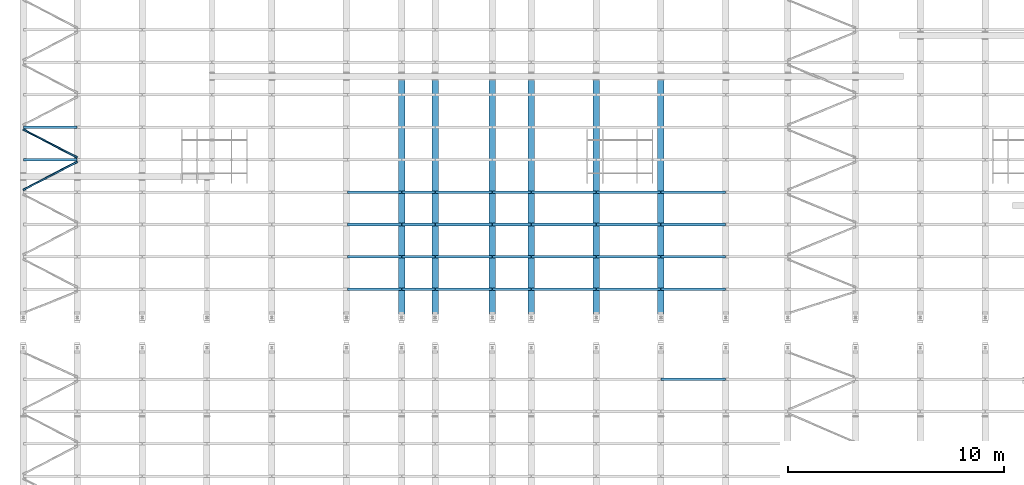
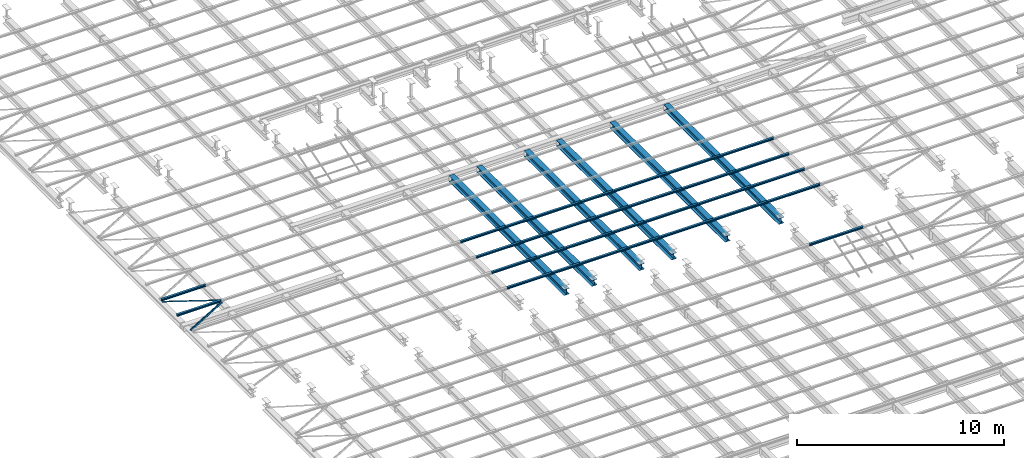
# One storey, part 53 of 139: 39 beams.
"""IFC2X3 building model written with IfcOpenShell, lengths in metres."""

from ifc_helpers import new_model, entity, si_unit, converted_unit, derived_unit, frame, origin, place, context, subcontext, project, spatial, polyline, outline, extrude, material, element, save


model = new_model("IFC2X3")

# Units and contexts
model_context = context("Model", 3, precision=1e-05, world=origin())
body_context = subcontext(model_context, "Body", "Model", "MODEL_VIEW")
ifc_project = project(units=[si_unit("LENGTHUNIT", "METRE"), si_unit("AREAUNIT", "SQUARE_METRE"), si_unit("VOLUMEUNIT", "CUBIC_METRE"), si_unit("MASSUNIT", "GRAM", prefix="KILO"), converted_unit("PLANEANGLEUNIT", "DEGREE", entity("IfcPlaneAngleMeasure", 0.0174532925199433), si_unit("PLANEANGLEUNIT", "RADIAN"), dimensions=[0, 0, 0, 0, 0, 0, 0]), derived_unit("THERMALTRANSMITTANCEUNIT", [(si_unit("POWERUNIT", "WATT"), 1), (si_unit("THERMODYNAMICTEMPERATUREUNIT", "KELVIN"), -1), (si_unit("LENGTHUNIT", "METRE"), -2)]), derived_unit("VOLUMETRICFLOWRATEUNIT", [(si_unit("LENGTHUNIT", "METRE"), 3), (converted_unit("TIMEUNIT", "hour", entity("IfcTimeMeasure", 3600.0), si_unit("TIMEUNIT", "SECOND"), dimensions=[0, 0, 1, 0, 0, 0, 0]), -1), (si_unit("LENGTHUNIT", "METRE"), -1)])], contexts=[model_context])

# Site, building, storey
site_placement = place(None, origin())
site = spatial("IfcSite", under=ifc_project, at=site_placement, Name="TWP_Speiseverteilzentrum SBW VZ II", CompositionType="ELEMENT")
building_placement = place(site_placement, origin())
building = spatial("IfcBuilding", under=site, at=building_placement, Name="Speiseverteilzentrum SBW VZ II", CompositionType="ELEMENT")
storey_placement = place(building_placement, frame((0.0, 0.0, 7.1307)))
storey = spatial("IfcBuildingStorey", under=building, at=storey_placement, Name="Wartung_FFB", CompositionType="ELEMENT", Elevation=7.1307)

# Beams
ifc_material_1 = material(Name="S235")
beam_1_placement = place(storey_placement, frame((32.2500000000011, 63.2824932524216, -0.365), z_axis=(0.0, 0.0, 1.0), x_axis=(-1.0, 0.0, 0.0)))
element("IfcBeam", 1, at=beam_1_placement, inside=storey, material=ifc_material_1, Name="Stahlträger", context=body_context, shape_type="SweptSolid", body=[
    extrude(outline(polyline([(-0.15, 0.175), (-0.15, 0.1575), (-0.00500000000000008, 0.1575), (-0.0050000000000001, -0.1575), (-0.15, -0.1575), (-0.15, -0.175), (0.15, -0.175), (0.15, -0.1575), (0.0049999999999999, -0.1575), (0.00499999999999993, 0.1575), (0.15, 0.1575), (0.15, 0.175), (-0.15, 0.175)])), frame((0.0, 0.0, 0.0), z_axis=(0.0, 1.0, 0.0), x_axis=(-1.0, 0.0, 0.0)), (0.0, 0.0, 1.0), 11.1324932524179),
])
ifc_material_2 = material(Name="S235")
beam_2_placement = place(storey_placement, frame((34.0500000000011, 63.2824932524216, -0.365), z_axis=(0.0, 0.0, 1.0), x_axis=(-1.0, 0.0, 0.0)))
element("IfcBeam", 2, at=beam_2_placement, inside=storey, material=ifc_material_2, Name="Stahlträger", context=body_context, shape_type="SweptSolid", body=[
    extrude(outline(polyline([(-0.15, 0.175), (-0.15, 0.1575), (-0.00500000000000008, 0.1575), (-0.0050000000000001, -0.1575), (-0.15, -0.1575), (-0.15, -0.175), (0.15, -0.175), (0.15, -0.1575), (0.0049999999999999, -0.1575), (0.00499999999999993, 0.1575), (0.15, 0.1575), (0.15, 0.175), (-0.15, 0.175)])), frame((0.0, 0.0, 0.0), z_axis=(0.0, 1.0, 0.0), x_axis=(-1.0, 0.0, 0.0)), (0.0, 0.0, 1.0), 11.1324932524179),
])
ifc_material_3 = material(Name="S235")
beam_3_placement = place(storey_placement, frame((37.0500000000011, 63.2824932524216, -0.365), z_axis=(0.0, 0.0, 1.0), x_axis=(-1.0, 0.0, 0.0)))
element("IfcBeam", 3, at=beam_3_placement, inside=storey, material=ifc_material_3, Name="Stahlträger", context=body_context, shape_type="SweptSolid", body=[
    extrude(outline(polyline([(-0.15, 0.175), (-0.15, 0.1575), (-0.00500000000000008, 0.1575), (-0.0050000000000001, -0.1575), (-0.15, -0.1575), (-0.15, -0.175), (0.15, -0.175), (0.15, -0.1575), (0.0049999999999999, -0.1575), (0.00499999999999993, 0.1575), (0.15, 0.1575), (0.15, 0.175), (-0.15, 0.175)])), frame((0.0, 0.0, 0.0), z_axis=(0.0, 1.0, 0.0), x_axis=(-1.0, 0.0, 0.0)), (0.0, 0.0, 1.0), 11.1324932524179),
])
ifc_material_4 = material(Name="S235")
beam_4_placement = place(storey_placement, frame((40.0500000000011, 63.2824932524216, -0.365), z_axis=(0.0, 0.0, 1.0), x_axis=(-1.0, 0.0, 0.0)))
element("IfcBeam", 4, at=beam_4_placement, inside=storey, material=ifc_material_4, Name="Stahlträger", context=body_context, shape_type="SweptSolid", body=[
    extrude(outline(polyline([(-0.15, 0.175), (-0.15, 0.1575), (-0.00500000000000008, 0.1575), (-0.0050000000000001, -0.1575), (-0.15, -0.1575), (-0.15, -0.175), (0.15, -0.175), (0.15, -0.1575), (0.0049999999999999, -0.1575), (0.00499999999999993, 0.1575), (0.15, 0.1575), (0.15, 0.175), (-0.15, 0.175)])), frame((0.0, 0.0, 0.0), z_axis=(0.0, 1.0, 0.0), x_axis=(-1.0, 0.0, 0.0)), (0.0, 0.0, 1.0), 11.1324932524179),
])
ifc_material_5 = material(Name="S235")
beam_5_placement = place(storey_placement, frame((28.0500000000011, 63.2824932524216, -0.365), z_axis=(0.0, 0.0, 1.0), x_axis=(-1.0, 0.0, 0.0)))
element("IfcBeam", 5, at=beam_5_placement, inside=storey, material=ifc_material_5, Name="Stahlträger", context=body_context, shape_type="SweptSolid", body=[
    extrude(outline(polyline([(-0.15, 0.175), (-0.15, 0.1575), (-0.00500000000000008, 0.1575), (-0.0050000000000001, -0.1575), (-0.15, -0.1575), (-0.15, -0.175), (0.15, -0.175), (0.15, -0.1575), (0.0049999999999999, -0.1575), (0.00499999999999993, 0.1575), (0.15, 0.1575), (0.15, 0.175), (-0.15, 0.175)])), frame((0.0, 0.0, 0.0), z_axis=(0.0, 1.0, 0.0), x_axis=(-1.0, 0.0, 0.0)), (0.0, 0.0, 1.0), 11.1324932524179),
])
ifc_material_6 = material(Name="S235")
beam_6_placement = place(storey_placement, frame((29.6000000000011, 63.2824932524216, -0.365), z_axis=(0.0, 0.0, 1.0), x_axis=(-1.0, 0.0, 0.0)))
element("IfcBeam", 6, at=beam_6_placement, inside=storey, material=ifc_material_6, Name="Stahlträger", context=body_context, shape_type="SweptSolid", body=[
    extrude(outline(polyline([(-0.15, 0.175), (-0.15, 0.1575), (-0.00500000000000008, 0.1575), (-0.0050000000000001, -0.1575), (-0.15, -0.1575), (-0.15, -0.175), (0.15, -0.175), (0.15, -0.1575), (0.0049999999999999, -0.1575), (0.00499999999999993, 0.1575), (0.15, 0.1575), (0.15, 0.175), (-0.15, 0.175)])), frame((0.0, 0.0, 0.0), z_axis=(0.0, 1.0, 0.0), x_axis=(-1.0, 0.0, 0.0)), (0.0, 0.0, 1.0), 11.1324932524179),
])
ifc_material_7 = material(Name="S235")
beam_7_placement = place(storey_placement, frame((10.5600000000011, 61.1011263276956, -0.133), z_axis=(0.0, 0.0, 1.0), x_axis=(0.0, -1.0, 0.0)))
element("IfcBeam", 7, at=beam_7_placement, inside=storey, material=ifc_material_7, Name="Nebenträger", context=body_context, shape_type="SweptSolid", body=[
    extrude(outline(polyline([(-0.06, 0.0570000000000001), (-0.06, 0.0490000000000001), (-0.00249999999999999, 0.0490000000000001), (-0.0025, -0.0489999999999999), (-0.06, -0.0489999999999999), (-0.06, -0.0569999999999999), (0.06, -0.0569999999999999), (0.06, -0.0489999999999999), (0.0025, -0.0489999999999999), (0.00250000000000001, 0.0490000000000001), (0.06, 0.0490000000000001), (0.06, 0.0570000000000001), (-0.06, 0.0570000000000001)])), frame((0.0, 0.0, 0.0), z_axis=(0.0, 1.0, 0.0), x_axis=(-1.0, 0.0, 0.0)), (0.0, 0.0, 1.0), 2.48000000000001),
])
ifc_material_8 = material(Name="S235")
beam_8_placement = place(storey_placement, frame((10.5600000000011, 59.6011263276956, -0.133), z_axis=(0.0, 0.0, 1.0), x_axis=(0.0, -1.0, 0.0)))
element("IfcBeam", 8, at=beam_8_placement, inside=storey, material=ifc_material_8, Name="Nebenträger", context=body_context, shape_type="SweptSolid", body=[
    extrude(outline(polyline([(-0.06, 0.0570000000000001), (-0.06, 0.0490000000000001), (-0.00249999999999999, 0.0490000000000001), (-0.0025, -0.0489999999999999), (-0.06, -0.0489999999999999), (-0.06, -0.0569999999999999), (0.06, -0.0569999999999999), (0.06, -0.0489999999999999), (0.0025, -0.0489999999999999), (0.00250000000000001, 0.0490000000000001), (0.06, 0.0490000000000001), (0.06, 0.0570000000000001), (-0.06, 0.0570000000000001)])), frame((0.0, 0.0, 0.0), z_axis=(0.0, 1.0, 0.0), x_axis=(-1.0, 0.0, 0.0)), (0.0, 0.0, 1.0), 2.48000000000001),
])
ifc_material_9 = material(Name="S235")
beam_9_placement = place(storey_placement, frame((34.0600000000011, 58.1011263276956, -0.133), z_axis=(0.0, 0.0, 1.0), x_axis=(0.0, -1.0, 0.0)))
element("IfcBeam", 9, at=beam_9_placement, inside=storey, material=ifc_material_9, Name="Nebenträger", context=body_context, shape_type="SweptSolid", body=[
    extrude(outline(polyline([(-0.06, 0.0570000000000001), (-0.06, 0.0490000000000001), (-0.00249999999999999, 0.0490000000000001), (-0.0025, -0.0489999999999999), (-0.06, -0.0489999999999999), (-0.06, -0.0569999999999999), (0.06, -0.0569999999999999), (0.06, -0.0489999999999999), (0.0025, -0.0489999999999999), (0.00250000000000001, 0.0490000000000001), (0.06, 0.0490000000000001), (0.06, 0.0570000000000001), (-0.06, 0.0570000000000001)])), frame((0.0, 0.0, 0.0), z_axis=(0.0, 1.0, 0.0), x_axis=(-1.0, 0.0, 0.0)), (0.0, 0.0, 1.0), 2.98),
])
ifc_material_10 = material(Name="S235")
beam_10_placement = place(storey_placement, frame((37.0600000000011, 58.1011263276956, -0.133), z_axis=(0.0, 0.0, 1.0), x_axis=(0.0, -1.0, 0.0)))
element("IfcBeam", 10, at=beam_10_placement, inside=storey, material=ifc_material_10, Name="Nebenträger", context=body_context, shape_type="SweptSolid", body=[
    extrude(outline(polyline([(-0.06, 0.0570000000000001), (-0.06, 0.0490000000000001), (-0.00249999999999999, 0.0490000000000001), (-0.0025, -0.0489999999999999), (-0.06, -0.0489999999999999), (-0.06, -0.0569999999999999), (0.06, -0.0569999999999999), (0.06, -0.0489999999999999), (0.0025, -0.0489999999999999), (0.00250000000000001, 0.0490000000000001), (0.06, 0.0490000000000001), (0.06, 0.0570000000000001), (-0.06, 0.0570000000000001)])), frame((0.0, 0.0, 0.0), z_axis=(0.0, 1.0, 0.0), x_axis=(-1.0, 0.0, 0.0)), (0.0, 0.0, 1.0), 2.98),
])
ifc_material_11 = material(Name="S235")
beam_11_placement = place(storey_placement, frame((40.0600000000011, 58.1011263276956, -0.133), z_axis=(0.0, 0.0, 1.0), x_axis=(0.0, -1.0, 0.0)))
element("IfcBeam", 11, at=beam_11_placement, inside=storey, material=ifc_material_11, Name="Nebenträger", context=body_context, shape_type="SweptSolid", body=[
    extrude(outline(polyline([(-0.06, 0.0570000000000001), (-0.06, 0.0490000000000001), (-0.00249999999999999, 0.0490000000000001), (-0.0025, -0.0489999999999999), (-0.06, -0.0489999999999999), (-0.06, -0.0569999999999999), (0.06, -0.0569999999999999), (0.06, -0.0489999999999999), (0.0025, -0.0489999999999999), (0.00250000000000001, 0.0490000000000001), (0.06, 0.0490000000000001), (0.06, 0.0570000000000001), (-0.06, 0.0570000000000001)])), frame((0.0, 0.0, 0.0), z_axis=(0.0, 1.0, 0.0), x_axis=(-1.0, 0.0, 0.0)), (0.0, 0.0, 1.0), 2.98),
])
ifc_material_12 = material(Name="S235")
beam_12_placement = place(storey_placement, frame((34.0600000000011, 56.6011263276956, -0.133), z_axis=(0.0, 0.0, 1.0), x_axis=(0.0, -1.0, 0.0)))
element("IfcBeam", 12, at=beam_12_placement, inside=storey, material=ifc_material_12, Name="Nebenträger", context=body_context, shape_type="SweptSolid", body=[
    extrude(outline(polyline([(-0.06, 0.0570000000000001), (-0.06, 0.0490000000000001), (-0.00249999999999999, 0.0490000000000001), (-0.0025, -0.0489999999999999), (-0.06, -0.0489999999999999), (-0.06, -0.0569999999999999), (0.06, -0.0569999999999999), (0.06, -0.0489999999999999), (0.0025, -0.0489999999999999), (0.00250000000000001, 0.0490000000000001), (0.06, 0.0490000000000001), (0.06, 0.0570000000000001), (-0.06, 0.0570000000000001)])), frame((0.0, 0.0, 0.0), z_axis=(0.0, 1.0, 0.0), x_axis=(-1.0, 0.0, 0.0)), (0.0, 0.0, 1.0), 2.98),
])
ifc_material_13 = material(Name="S235")
beam_13_placement = place(storey_placement, frame((37.0600000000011, 56.6011263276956, -0.133), z_axis=(0.0, 0.0, 1.0), x_axis=(0.0, -1.0, 0.0)))
element("IfcBeam", 13, at=beam_13_placement, inside=storey, material=ifc_material_13, Name="Nebenträger", context=body_context, shape_type="SweptSolid", body=[
    extrude(outline(polyline([(-0.06, 0.0570000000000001), (-0.06, 0.0490000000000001), (-0.00249999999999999, 0.0490000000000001), (-0.0025, -0.0489999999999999), (-0.06, -0.0489999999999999), (-0.06, -0.0569999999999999), (0.06, -0.0569999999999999), (0.06, -0.0489999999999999), (0.0025, -0.0489999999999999), (0.00250000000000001, 0.0490000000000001), (0.06, 0.0490000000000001), (0.06, 0.0570000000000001), (-0.06, 0.0570000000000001)])), frame((0.0, 0.0, 0.0), z_axis=(0.0, 1.0, 0.0), x_axis=(-1.0, 0.0, 0.0)), (0.0, 0.0, 1.0), 2.98),
])
ifc_material_14 = material(Name="S235")
beam_14_placement = place(storey_placement, frame((40.0600000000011, 56.6011263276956, -0.133), z_axis=(0.0, 0.0, 1.0), x_axis=(0.0, -1.0, 0.0)))
element("IfcBeam", 14, at=beam_14_placement, inside=storey, material=ifc_material_14, Name="Nebenträger", context=body_context, shape_type="SweptSolid", body=[
    extrude(outline(polyline([(-0.06, 0.0570000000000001), (-0.06, 0.0490000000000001), (-0.00249999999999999, 0.0490000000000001), (-0.0025, -0.0489999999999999), (-0.06, -0.0489999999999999), (-0.06, -0.0569999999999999), (0.06, -0.0569999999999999), (0.06, -0.0489999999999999), (0.0025, -0.0489999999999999), (0.00250000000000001, 0.0490000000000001), (0.06, 0.0490000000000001), (0.06, 0.0570000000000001), (-0.06, 0.0570000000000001)])), frame((0.0, 0.0, 0.0), z_axis=(0.0, 1.0, 0.0), x_axis=(-1.0, 0.0, 0.0)), (0.0, 0.0, 1.0), 2.98),
])
ifc_material_15 = material(Name="S235")
beam_15_placement = place(storey_placement, frame((34.0600000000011, 55.1011263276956, -0.133), z_axis=(0.0, 0.0, 1.0), x_axis=(0.0, -1.0, 0.0)))
element("IfcBeam", 15, at=beam_15_placement, inside=storey, material=ifc_material_15, Name="Nebenträger", context=body_context, shape_type="SweptSolid", body=[
    extrude(outline(polyline([(-0.06, 0.0570000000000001), (-0.06, 0.0490000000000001), (-0.00249999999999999, 0.0490000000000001), (-0.0025, -0.0489999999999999), (-0.06, -0.0489999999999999), (-0.06, -0.0569999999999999), (0.06, -0.0569999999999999), (0.06, -0.0489999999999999), (0.0025, -0.0489999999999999), (0.00250000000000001, 0.0490000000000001), (0.06, 0.0490000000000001), (0.06, 0.0570000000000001), (-0.06, 0.0570000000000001)])), frame((0.0, 0.0, 0.0), z_axis=(0.0, 1.0, 0.0), x_axis=(-1.0, 0.0, 0.0)), (0.0, 0.0, 1.0), 2.98),
])
ifc_material_16 = material(Name="S235")
beam_16_placement = place(storey_placement, frame((37.0600000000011, 55.1011263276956, -0.133), z_axis=(0.0, 0.0, 1.0), x_axis=(0.0, -1.0, 0.0)))
element("IfcBeam", 16, at=beam_16_placement, inside=storey, material=ifc_material_16, Name="Nebenträger", context=body_context, shape_type="SweptSolid", body=[
    extrude(outline(polyline([(-0.06, 0.0570000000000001), (-0.06, 0.0490000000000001), (-0.00249999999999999, 0.0490000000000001), (-0.0025, -0.0489999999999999), (-0.06, -0.0489999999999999), (-0.06, -0.0569999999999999), (0.06, -0.0569999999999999), (0.06, -0.0489999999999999), (0.0025, -0.0489999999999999), (0.00250000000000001, 0.0490000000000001), (0.06, 0.0490000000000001), (0.06, 0.0570000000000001), (-0.06, 0.0570000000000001)])), frame((0.0, 0.0, 0.0), z_axis=(0.0, 1.0, 0.0), x_axis=(-1.0, 0.0, 0.0)), (0.0, 0.0, 1.0), 2.98),
])
ifc_material_17 = material(Name="S235")
beam_17_placement = place(storey_placement, frame((40.0600000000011, 55.1011263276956, -0.133), z_axis=(0.0, 0.0, 1.0), x_axis=(0.0, -1.0, 0.0)))
element("IfcBeam", 17, at=beam_17_placement, inside=storey, material=ifc_material_17, Name="Nebenträger", context=body_context, shape_type="SweptSolid", body=[
    extrude(outline(polyline([(-0.06, 0.0570000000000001), (-0.06, 0.0490000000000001), (-0.00249999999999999, 0.0490000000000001), (-0.0025, -0.0489999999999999), (-0.06, -0.0489999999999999), (-0.06, -0.0569999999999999), (0.06, -0.0569999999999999), (0.06, -0.0489999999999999), (0.0025, -0.0489999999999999), (0.00250000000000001, 0.0490000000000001), (0.06, 0.0490000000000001), (0.06, 0.0570000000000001), (-0.06, 0.0570000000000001)])), frame((0.0, 0.0, 0.0), z_axis=(0.0, 1.0, 0.0), x_axis=(-1.0, 0.0, 0.0)), (0.0, 0.0, 1.0), 2.98),
])
ifc_material_18 = material(Name="S235")
beam_18_placement = place(storey_placement, frame((34.0600000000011, 53.6011263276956, -0.133), z_axis=(0.0, 0.0, 1.0), x_axis=(0.0, -1.0, 0.0)))
element("IfcBeam", 18, at=beam_18_placement, inside=storey, material=ifc_material_18, Name="Nebenträger", context=body_context, shape_type="SweptSolid", body=[
    extrude(outline(polyline([(-0.06, 0.0570000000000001), (-0.06, 0.0490000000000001), (-0.00249999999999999, 0.0490000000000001), (-0.0025, -0.0489999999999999), (-0.06, -0.0489999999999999), (-0.06, -0.0569999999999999), (0.06, -0.0569999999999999), (0.06, -0.0489999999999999), (0.0025, -0.0489999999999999), (0.00250000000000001, 0.0490000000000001), (0.06, 0.0490000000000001), (0.06, 0.0570000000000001), (-0.06, 0.0570000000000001)])), frame((0.0, 0.0, 0.0), z_axis=(0.0, 1.0, 0.0), x_axis=(-1.0, 0.0, 0.0)), (0.0, 0.0, 1.0), 2.98),
])
ifc_material_19 = material(Name="S235")
beam_19_placement = place(storey_placement, frame((37.0600000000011, 53.6011263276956, -0.133), z_axis=(0.0, 0.0, 1.0), x_axis=(0.0, -1.0, 0.0)))
element("IfcBeam", 19, at=beam_19_placement, inside=storey, material=ifc_material_19, Name="Nebenträger", context=body_context, shape_type="SweptSolid", body=[
    extrude(outline(polyline([(-0.06, 0.0570000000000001), (-0.06, 0.0490000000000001), (-0.00249999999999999, 0.0490000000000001), (-0.0025, -0.0489999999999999), (-0.06, -0.0489999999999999), (-0.06, -0.0569999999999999), (0.06, -0.0569999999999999), (0.06, -0.0489999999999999), (0.0025, -0.0489999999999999), (0.00250000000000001, 0.0490000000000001), (0.06, 0.0490000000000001), (0.06, 0.0570000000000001), (-0.06, 0.0570000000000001)])), frame((0.0, 0.0, 0.0), z_axis=(0.0, 1.0, 0.0), x_axis=(-1.0, 0.0, 0.0)), (0.0, 0.0, 1.0), 2.98),
])
ifc_material_20 = material(Name="S235")
beam_20_placement = place(storey_placement, frame((40.0600000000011, 53.6011263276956, -0.133), z_axis=(0.0, 0.0, 1.0), x_axis=(0.0, -1.0, 0.0)))
element("IfcBeam", 20, at=beam_20_placement, inside=storey, material=ifc_material_20, Name="Nebenträger", context=body_context, shape_type="SweptSolid", body=[
    extrude(outline(polyline([(-0.06, 0.0570000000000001), (-0.06, 0.0490000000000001), (-0.00249999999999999, 0.0490000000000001), (-0.0025, -0.0489999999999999), (-0.06, -0.0489999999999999), (-0.06, -0.0569999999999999), (0.06, -0.0569999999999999), (0.06, -0.0489999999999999), (0.0025, -0.0489999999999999), (0.00250000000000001, 0.0490000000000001), (0.06, 0.0490000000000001), (0.06, 0.0570000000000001), (-0.06, 0.0570000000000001)])), frame((0.0, 0.0, 0.0), z_axis=(0.0, 1.0, 0.0), x_axis=(-1.0, 0.0, 0.0)), (0.0, 0.0, 1.0), 2.98),
])
ifc_material_21 = material(Name="S235")
beam_21_placement = place(storey_placement, frame((40.0600000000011, 49.4500000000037, -0.133), z_axis=(0.0, 0.0, 1.0), x_axis=(0.0, -1.0, 0.0)))
element("IfcBeam", 21, at=beam_21_placement, inside=storey, material=ifc_material_21, Name="Nebenträger", context=body_context, shape_type="SweptSolid", body=[
    extrude(outline(polyline([(-0.06, 0.0570000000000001), (-0.06, 0.0490000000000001), (-0.00249999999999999, 0.0490000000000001), (-0.0025, -0.0489999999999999), (-0.06, -0.0489999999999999), (-0.06, -0.0569999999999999), (0.06, -0.0569999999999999), (0.06, -0.0489999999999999), (0.0025, -0.0489999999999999), (0.00250000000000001, 0.0490000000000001), (0.06, 0.0490000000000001), (0.06, 0.0570000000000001), (-0.06, 0.0570000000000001)])), frame((0.0, 0.0, 0.0), z_axis=(0.0, 1.0, 0.0), x_axis=(-1.0, 0.0, 0.0)), (0.0, 0.0, 1.0), 2.98),
])
ifc_material_22 = material(Name="S235")
beam_22_placement = place(storey_placement, frame((25.5600000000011, 58.1011263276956, -0.133), z_axis=(0.0, 0.0, 1.0), x_axis=(0.0, -1.0, 0.0)))
element("IfcBeam", 22, at=beam_22_placement, inside=storey, material=ifc_material_22, Name="Nebenträger", context=body_context, shape_type="SweptSolid", body=[
    extrude(outline(polyline([(-0.06, 0.0570000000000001), (-0.06, 0.0490000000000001), (-0.00249999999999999, 0.0490000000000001), (-0.0025, -0.0489999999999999), (-0.06, -0.0489999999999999), (-0.06, -0.0569999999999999), (0.06, -0.0569999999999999), (0.06, -0.0489999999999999), (0.0025, -0.0489999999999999), (0.00250000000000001, 0.0490000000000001), (0.06, 0.0490000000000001), (0.06, 0.0570000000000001), (-0.06, 0.0570000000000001)])), frame((0.0, 0.0, 0.0), z_axis=(0.0, 1.0, 0.0), x_axis=(-1.0, 0.0, 0.0)), (0.0, 0.0, 1.0), 2.48),
])
ifc_material_23 = material(Name="S235")
beam_23_placement = place(storey_placement, frame((25.5600000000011, 56.6011263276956, -0.133), z_axis=(0.0, 0.0, 1.0), x_axis=(0.0, -1.0, 0.0)))
element("IfcBeam", 23, at=beam_23_placement, inside=storey, material=ifc_material_23, Name="Nebenträger", context=body_context, shape_type="SweptSolid", body=[
    extrude(outline(polyline([(-0.06, 0.0570000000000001), (-0.06, 0.0490000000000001), (-0.00249999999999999, 0.0490000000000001), (-0.0025, -0.0489999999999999), (-0.06, -0.0489999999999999), (-0.06, -0.0569999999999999), (0.06, -0.0569999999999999), (0.06, -0.0489999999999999), (0.0025, -0.0489999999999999), (0.00250000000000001, 0.0490000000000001), (0.06, 0.0490000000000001), (0.06, 0.0570000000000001), (-0.06, 0.0570000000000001)])), frame((0.0, 0.0, 0.0), z_axis=(0.0, 1.0, 0.0), x_axis=(-1.0, 0.0, 0.0)), (0.0, 0.0, 1.0), 2.48),
])
ifc_material_24 = material(Name="S235")
beam_24_placement = place(storey_placement, frame((25.5600000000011, 55.1011263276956, -0.133), z_axis=(0.0, 0.0, 1.0), x_axis=(0.0, -1.0, 0.0)))
element("IfcBeam", 24, at=beam_24_placement, inside=storey, material=ifc_material_24, Name="Nebenträger", context=body_context, shape_type="SweptSolid", body=[
    extrude(outline(polyline([(-0.06, 0.0570000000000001), (-0.06, 0.0490000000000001), (-0.00249999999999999, 0.0490000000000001), (-0.0025, -0.0489999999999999), (-0.06, -0.0489999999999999), (-0.06, -0.0569999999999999), (0.06, -0.0569999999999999), (0.06, -0.0489999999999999), (0.0025, -0.0489999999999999), (0.00250000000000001, 0.0490000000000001), (0.06, 0.0490000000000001), (0.06, 0.0570000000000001), (-0.06, 0.0570000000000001)])), frame((0.0, 0.0, 0.0), z_axis=(0.0, 1.0, 0.0), x_axis=(-1.0, 0.0, 0.0)), (0.0, 0.0, 1.0), 2.48),
])
ifc_material_25 = material(Name="S235")
beam_25_placement = place(storey_placement, frame((25.5600000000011, 53.6011263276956, -0.133), z_axis=(0.0, 0.0, 1.0), x_axis=(0.0, -1.0, 0.0)))
element("IfcBeam", 25, at=beam_25_placement, inside=storey, material=ifc_material_25, Name="Nebenträger", context=body_context, shape_type="SweptSolid", body=[
    extrude(outline(polyline([(-0.06, 0.0570000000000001), (-0.06, 0.0490000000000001), (-0.00249999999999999, 0.0490000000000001), (-0.0025, -0.0489999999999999), (-0.06, -0.0489999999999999), (-0.06, -0.0569999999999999), (0.06, -0.0569999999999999), (0.06, -0.0489999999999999), (0.0025, -0.0489999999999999), (0.00250000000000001, 0.0490000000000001), (0.06, 0.0490000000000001), (0.06, 0.0570000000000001), (-0.06, 0.0570000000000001)])), frame((0.0, 0.0, 0.0), z_axis=(0.0, 1.0, 0.0), x_axis=(-1.0, 0.0, 0.0)), (0.0, 0.0, 1.0), 2.48),
])
ifc_material_26 = material(Name="S235")
beam_26_placement = place(storey_placement, frame((28.0600000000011, 58.1011263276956, -0.133), z_axis=(0.0, 0.0, 1.0), x_axis=(0.0, -1.0, 0.0)))
element("IfcBeam", 26, at=beam_26_placement, inside=storey, material=ifc_material_26, Name="Nebenträger", context=body_context, shape_type="SweptSolid", body=[
    extrude(outline(polyline([(-0.06, 0.0570000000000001), (-0.06, 0.0490000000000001), (-0.00249999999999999, 0.0490000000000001), (-0.0025, -0.0489999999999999), (-0.06, -0.0489999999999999), (-0.06, -0.0569999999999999), (0.06, -0.0569999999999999), (0.06, -0.0489999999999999), (0.0025, -0.0489999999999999), (0.00250000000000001, 0.0490000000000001), (0.06, 0.0490000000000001), (0.06, 0.0570000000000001), (-0.06, 0.0570000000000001)])), frame((0.0, 0.0, 0.0), z_axis=(0.0, 1.0, 0.0), x_axis=(-1.0, 0.0, 0.0)), (0.0, 0.0, 1.0), 1.52999999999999),
])
ifc_material_27 = material(Name="S235")
beam_27_placement = place(storey_placement, frame((28.0600000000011, 56.6011263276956, -0.133), z_axis=(0.0, 0.0, 1.0), x_axis=(0.0, -1.0, 0.0)))
element("IfcBeam", 27, at=beam_27_placement, inside=storey, material=ifc_material_27, Name="Nebenträger", context=body_context, shape_type="SweptSolid", body=[
    extrude(outline(polyline([(-0.06, 0.0570000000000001), (-0.06, 0.0490000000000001), (-0.00249999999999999, 0.0490000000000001), (-0.0025, -0.0489999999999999), (-0.06, -0.0489999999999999), (-0.06, -0.0569999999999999), (0.06, -0.0569999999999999), (0.06, -0.0489999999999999), (0.0025, -0.0489999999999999), (0.00250000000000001, 0.0490000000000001), (0.06, 0.0490000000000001), (0.06, 0.0570000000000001), (-0.06, 0.0570000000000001)])), frame((0.0, 0.0, 0.0), z_axis=(0.0, 1.0, 0.0), x_axis=(-1.0, 0.0, 0.0)), (0.0, 0.0, 1.0), 1.52999999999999),
])
ifc_material_28 = material(Name="S235")
beam_28_placement = place(storey_placement, frame((28.0600000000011, 55.1011263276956, -0.133), z_axis=(0.0, 0.0, 1.0), x_axis=(0.0, -1.0, 0.0)))
element("IfcBeam", 28, at=beam_28_placement, inside=storey, material=ifc_material_28, Name="Nebenträger", context=body_context, shape_type="SweptSolid", body=[
    extrude(outline(polyline([(-0.06, 0.0570000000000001), (-0.06, 0.0490000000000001), (-0.00249999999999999, 0.0490000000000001), (-0.0025, -0.0489999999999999), (-0.06, -0.0489999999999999), (-0.06, -0.0569999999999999), (0.06, -0.0569999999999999), (0.06, -0.0489999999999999), (0.0025, -0.0489999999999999), (0.00250000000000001, 0.0490000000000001), (0.06, 0.0490000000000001), (0.06, 0.0570000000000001), (-0.06, 0.0570000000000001)])), frame((0.0, 0.0, 0.0), z_axis=(0.0, 1.0, 0.0), x_axis=(-1.0, 0.0, 0.0)), (0.0, 0.0, 1.0), 1.52999999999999),
])
ifc_material_29 = material(Name="S235")
beam_29_placement = place(storey_placement, frame((28.0600000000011, 53.6011263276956, -0.133), z_axis=(0.0, 0.0, 1.0), x_axis=(0.0, -1.0, 0.0)))
element("IfcBeam", 29, at=beam_29_placement, inside=storey, material=ifc_material_29, Name="Nebenträger", context=body_context, shape_type="SweptSolid", body=[
    extrude(outline(polyline([(-0.06, 0.0570000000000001), (-0.06, 0.0490000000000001), (-0.00249999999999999, 0.0490000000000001), (-0.0025, -0.0489999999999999), (-0.06, -0.0489999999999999), (-0.06, -0.0569999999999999), (0.06, -0.0569999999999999), (0.06, -0.0489999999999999), (0.0025, -0.0489999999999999), (0.00250000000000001, 0.0490000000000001), (0.06, 0.0490000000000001), (0.06, 0.0570000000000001), (-0.06, 0.0570000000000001)])), frame((0.0, 0.0, 0.0), z_axis=(0.0, 1.0, 0.0), x_axis=(-1.0, 0.0, 0.0)), (0.0, 0.0, 1.0), 1.52999999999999),
])
ifc_material_30 = material(Name="S235")
beam_30_placement = place(storey_placement, frame((29.6100000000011, 58.1011263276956, -0.133), z_axis=(0.0, 0.0, 1.0), x_axis=(0.0, -1.0, 0.0)))
element("IfcBeam", 30, at=beam_30_placement, inside=storey, material=ifc_material_30, Name="Nebenträger", context=body_context, shape_type="SweptSolid", body=[
    extrude(outline(polyline([(-0.06, 0.0570000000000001), (-0.06, 0.0490000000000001), (-0.00249999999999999, 0.0490000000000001), (-0.0025, -0.0489999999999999), (-0.06, -0.0489999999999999), (-0.06, -0.0569999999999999), (0.06, -0.0569999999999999), (0.06, -0.0489999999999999), (0.0025, -0.0489999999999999), (0.00250000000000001, 0.0490000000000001), (0.06, 0.0490000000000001), (0.06, 0.0570000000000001), (-0.06, 0.0570000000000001)])), frame((0.0, 0.0, 0.0), z_axis=(0.0, 1.0, 0.0), x_axis=(-1.0, 0.0, 0.0)), (0.0, 0.0, 1.0), 2.63000000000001),
])
ifc_material_31 = material(Name="S235")
beam_31_placement = place(storey_placement, frame((29.6100000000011, 56.6011263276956, -0.133), z_axis=(0.0, 0.0, 1.0), x_axis=(0.0, -1.0, 0.0)))
element("IfcBeam", 31, at=beam_31_placement, inside=storey, material=ifc_material_31, Name="Nebenträger", context=body_context, shape_type="SweptSolid", body=[
    extrude(outline(polyline([(-0.06, 0.0570000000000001), (-0.06, 0.0490000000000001), (-0.00249999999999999, 0.0490000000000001), (-0.0025, -0.0489999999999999), (-0.06, -0.0489999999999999), (-0.06, -0.0569999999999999), (0.06, -0.0569999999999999), (0.06, -0.0489999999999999), (0.0025, -0.0489999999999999), (0.00250000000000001, 0.0490000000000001), (0.06, 0.0490000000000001), (0.06, 0.0570000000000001), (-0.06, 0.0570000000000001)])), frame((0.0, 0.0, 0.0), z_axis=(0.0, 1.0, 0.0), x_axis=(-1.0, 0.0, 0.0)), (0.0, 0.0, 1.0), 2.63000000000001),
])
ifc_material_32 = material(Name="S235")
beam_32_placement = place(storey_placement, frame((29.6100000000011, 55.1011263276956, -0.133), z_axis=(0.0, 0.0, 1.0), x_axis=(0.0, -1.0, 0.0)))
element("IfcBeam", 32, at=beam_32_placement, inside=storey, material=ifc_material_32, Name="Nebenträger", context=body_context, shape_type="SweptSolid", body=[
    extrude(outline(polyline([(-0.06, 0.0570000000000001), (-0.06, 0.0490000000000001), (-0.00249999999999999, 0.0490000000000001), (-0.0025, -0.0489999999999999), (-0.06, -0.0489999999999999), (-0.06, -0.0569999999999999), (0.06, -0.0569999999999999), (0.06, -0.0489999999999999), (0.0025, -0.0489999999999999), (0.00250000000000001, 0.0490000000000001), (0.06, 0.0490000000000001), (0.06, 0.0570000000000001), (-0.06, 0.0570000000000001)])), frame((0.0, 0.0, 0.0), z_axis=(0.0, 1.0, 0.0), x_axis=(-1.0, 0.0, 0.0)), (0.0, 0.0, 1.0), 2.63000000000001),
])
ifc_material_33 = material(Name="S235")
beam_33_placement = place(storey_placement, frame((29.6100000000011, 53.6011263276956, -0.133), z_axis=(0.0, 0.0, 1.0), x_axis=(0.0, -1.0, 0.0)))
element("IfcBeam", 33, at=beam_33_placement, inside=storey, material=ifc_material_33, Name="Nebenträger", context=body_context, shape_type="SweptSolid", body=[
    extrude(outline(polyline([(-0.06, 0.0570000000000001), (-0.06, 0.0490000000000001), (-0.00249999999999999, 0.0490000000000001), (-0.0025, -0.0489999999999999), (-0.06, -0.0489999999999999), (-0.06, -0.0569999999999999), (0.06, -0.0569999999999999), (0.06, -0.0489999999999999), (0.0025, -0.0489999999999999), (0.00250000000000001, 0.0490000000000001), (0.06, 0.0490000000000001), (0.06, 0.0570000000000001), (-0.06, 0.0570000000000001)])), frame((0.0, 0.0, 0.0), z_axis=(0.0, 1.0, 0.0), x_axis=(-1.0, 0.0, 0.0)), (0.0, 0.0, 1.0), 2.63000000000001),
])
ifc_material_34 = material(Name="S235")
beam_34_placement = place(storey_placement, frame((32.2600000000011, 58.1011263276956, -0.133), z_axis=(0.0, 0.0, 1.0), x_axis=(0.0, -1.0, 0.0)))
element("IfcBeam", 34, at=beam_34_placement, inside=storey, material=ifc_material_34, Name="Nebenträger", context=body_context, shape_type="SweptSolid", body=[
    extrude(outline(polyline([(-0.06, 0.0570000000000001), (-0.06, 0.0490000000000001), (-0.00249999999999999, 0.0490000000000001), (-0.0025, -0.0489999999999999), (-0.06, -0.0489999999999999), (-0.06, -0.0569999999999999), (0.06, -0.0569999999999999), (0.06, -0.0489999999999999), (0.0025, -0.0489999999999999), (0.00250000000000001, 0.0490000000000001), (0.06, 0.0490000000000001), (0.06, 0.0570000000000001), (-0.06, 0.0570000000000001)])), frame((0.0, 0.0, 0.0), z_axis=(0.0, 1.0, 0.0), x_axis=(-1.0, 0.0, 0.0)), (0.0, 0.0, 1.0), 1.78),
])
ifc_material_35 = material(Name="S235")
beam_35_placement = place(storey_placement, frame((32.2600000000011, 56.6011263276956, -0.133), z_axis=(0.0, 0.0, 1.0), x_axis=(0.0, -1.0, 0.0)))
element("IfcBeam", 35, at=beam_35_placement, inside=storey, material=ifc_material_35, Name="Nebenträger", context=body_context, shape_type="SweptSolid", body=[
    extrude(outline(polyline([(-0.06, 0.0570000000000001), (-0.06, 0.0490000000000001), (-0.00249999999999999, 0.0490000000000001), (-0.0025, -0.0489999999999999), (-0.06, -0.0489999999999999), (-0.06, -0.0569999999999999), (0.06, -0.0569999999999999), (0.06, -0.0489999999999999), (0.0025, -0.0489999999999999), (0.00250000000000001, 0.0490000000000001), (0.06, 0.0490000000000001), (0.06, 0.0570000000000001), (-0.06, 0.0570000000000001)])), frame((0.0, 0.0, 0.0), z_axis=(0.0, 1.0, 0.0), x_axis=(-1.0, 0.0, 0.0)), (0.0, 0.0, 1.0), 1.78),
])
ifc_material_36 = material(Name="S235")
beam_36_placement = place(storey_placement, frame((32.2600000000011, 55.1011263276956, -0.133), z_axis=(0.0, 0.0, 1.0), x_axis=(0.0, -1.0, 0.0)))
element("IfcBeam", 36, at=beam_36_placement, inside=storey, material=ifc_material_36, Name="Nebenträger", context=body_context, shape_type="SweptSolid", body=[
    extrude(outline(polyline([(-0.06, 0.0570000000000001), (-0.06, 0.0490000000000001), (-0.00249999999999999, 0.0490000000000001), (-0.0025, -0.0489999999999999), (-0.06, -0.0489999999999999), (-0.06, -0.0569999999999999), (0.06, -0.0569999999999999), (0.06, -0.0489999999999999), (0.0025, -0.0489999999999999), (0.00250000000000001, 0.0490000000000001), (0.06, 0.0490000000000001), (0.06, 0.0570000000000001), (-0.06, 0.0570000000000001)])), frame((0.0, 0.0, 0.0), z_axis=(0.0, 1.0, 0.0), x_axis=(-1.0, 0.0, 0.0)), (0.0, 0.0, 1.0), 1.78),
])
ifc_material_37 = material(Name="S235")
beam_37_placement = place(storey_placement, frame((32.2600000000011, 53.6011263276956, -0.133), z_axis=(0.0, 0.0, 1.0), x_axis=(0.0, -1.0, 0.0)))
element("IfcBeam", 37, at=beam_37_placement, inside=storey, material=ifc_material_37, Name="Nebenträger", context=body_context, shape_type="SweptSolid", body=[
    extrude(outline(polyline([(-0.06, 0.0570000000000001), (-0.06, 0.0490000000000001), (-0.00249999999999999, 0.0490000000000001), (-0.0025, -0.0489999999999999), (-0.06, -0.0489999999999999), (-0.06, -0.0569999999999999), (0.06, -0.0569999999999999), (0.06, -0.0489999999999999), (0.0025, -0.0489999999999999), (0.00250000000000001, 0.0490000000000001), (0.06, 0.0490000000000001), (0.06, 0.0570000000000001), (-0.06, 0.0570000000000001)])), frame((0.0, 0.0, 0.0), z_axis=(0.0, 1.0, 0.0), x_axis=(-1.0, 0.0, 0.0)), (0.0, 0.0, 1.0), 1.78),
])
ifc_material_38 = material(Name="S235")
beam_38_placement = place(storey_placement, frame((10.5365784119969, 60.9843078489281, -0.167052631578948), z_axis=(0.0, 0.0, 1.0), x_axis=(-0.4612662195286, -0.887261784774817, 0.0)))
element("IfcBeam", 38, at=beam_38_placement, inside=storey, material=ifc_material_38, Name="Kreuzverband", context=body_context, shape_type="SweptSolid", body=[
    extrude(outline(polyline([(0.0570526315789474, -0.0229473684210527), (0.0570526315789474, -0.0149473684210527), (-0.0149473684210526, -0.0149473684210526), (-0.0149473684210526, 0.0570526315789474), (-0.0229473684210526, 0.0570526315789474), (-0.0229473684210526, -0.0229473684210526), (0.0570526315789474, -0.0229473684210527)])), frame((0.0, 0.0, 0.0), z_axis=(0.0, 1.00000000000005, 0.0), x_axis=(-1.0, 0.0, 0.0)), (0.0, 0.0, 1.0), 2.82000000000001),
])
ifc_material_39 = material(Name="S235")
beam_39_placement = place(storey_placement, frame((10.5365784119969, 58.2179448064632, -0.167052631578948), z_axis=(0.0, 0.0, 1.0), x_axis=(0.4612662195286, -0.887261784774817, 0.0)))
element("IfcBeam", 39, at=beam_39_placement, inside=storey, material=ifc_material_39, Name="Kreuzverband", context=body_context, shape_type="SweptSolid", body=[
    extrude(outline(polyline([(0.0229473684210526, -0.0229473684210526), (0.0229473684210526, 0.0570526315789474), (0.0149473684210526, 0.0570526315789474), (0.0149473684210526, -0.0149473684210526), (-0.0570526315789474, -0.0149473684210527), (-0.0570526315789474, -0.0229473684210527), (0.0229473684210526, -0.0229473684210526)])), frame((0.0, 0.0, 0.0), z_axis=(0.0, 1.00000000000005, 0.0), x_axis=(-1.0, 0.0, 0.0)), (0.0, 0.0, 1.0), 2.82000000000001),
])

save(model, "model.ifc")
